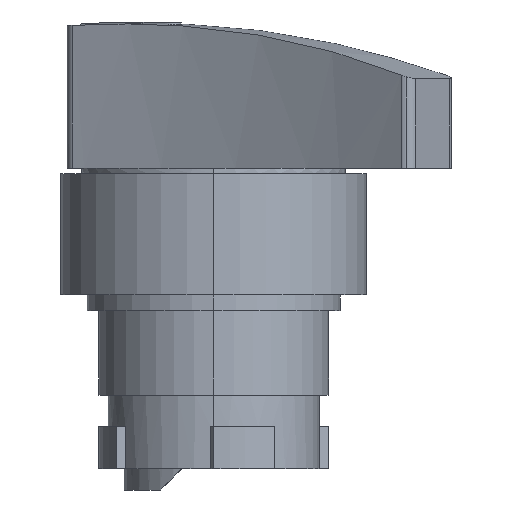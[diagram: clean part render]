
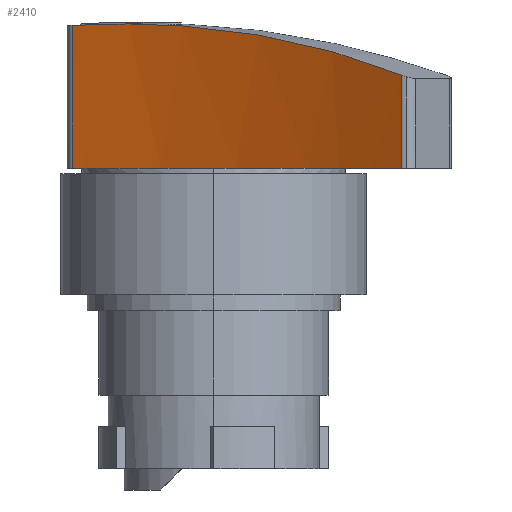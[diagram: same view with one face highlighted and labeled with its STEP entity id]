
A CAD part, left-side view. The second image highlights one B-rep face of the part: STEP entity #2410.
In plain terms, the highlighted cylindrical face has radius 130.225 mm (diameter 260.45 mm), a partial arc.
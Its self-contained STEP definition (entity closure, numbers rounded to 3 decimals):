
#2 = EDGE_CURVE ( 'NONE', #2058, #695, #2016, .T. ) ;
#100 = DIRECTION ( 'NONE',  ( -1., 0., 0. ) ) ;
#102 = EDGE_CURVE ( 'NONE', #1585, #1828, #181, .T. ) ;
#181 = LINE ( 'NONE', #3482, #3354 ) ;
#241 = ORIENTED_EDGE ( 'NONE', *, *, #2680, .T. ) ;
#269 = CARTESIAN_POINT ( 'NONE',  ( -3.725, -0.465, 25.23 ) ) ;
#487 = AXIS2_PLACEMENT_3D ( 'NONE', #3217, #1373, #1064 ) ;
#528 = ORIENTED_EDGE ( 'NONE', *, *, #3227, .F. ) ;
#585 = CARTESIAN_POINT ( 'NONE',  ( -11.581, -13.178, 22.707 ) ) ;
#644 = VERTEX_POINT ( 'NONE', #2310 ) ;
#682 = ORIENTED_EDGE ( 'NONE', *, *, #2, .T. ) ;
#695 = VERTEX_POINT ( 'NONE', #3735 ) ;
#714 = CARTESIAN_POINT ( 'NONE',  ( 2.819, 13.383, 12. ) ) ;
#882 = CARTESIAN_POINT ( 'NONE',  ( -15.181, -17.794, 20.83 ) ) ;
#926 = CIRCLE ( 'NONE', #2881, 130.225 ) ;
#1020 = FACE_OUTER_BOUND ( 'NONE', #1924, .T. ) ;
#1052 = B_SPLINE_CURVE_WITH_KNOTS ( 'NONE', 3,
 ( #882, #585, #2728, #269, #2418, #3961, #2111, #3647 ),
 .UNSPECIFIED., .F., .F.,
 ( 4, 2, 2, 4 ),
 ( 0., 0.018, 0.027, 0.036 ),
 .UNSPECIFIED. ) ;
#1058 = DIRECTION ( 'NONE',  ( 0., 0., -1. ) ) ;
#1064 = DIRECTION ( 'NONE',  ( -1., 0., 0. ) ) ;
#1241 = VERTEX_POINT ( 'NONE', #3974 ) ;
#1257 = EDGE_CURVE ( 'NONE', #644, #1585, #1052, .T. ) ;
#1373 = DIRECTION ( 'NONE',  ( 0., 0., -1. ) ) ;
#1459 = CYLINDRICAL_SURFACE ( 'NONE', #2664, 130.225 ) ;
#1585 = VERTEX_POINT ( 'NONE', #2266 ) ;
#1608 = EDGE_CURVE ( 'NONE', #695, #1241, #3866, .T. ) ;
#1626 = CARTESIAN_POINT ( 'NONE',  ( -117.876, 62.282, 12. ) ) ;
#1828 = VERTEX_POINT ( 'NONE', #714 ) ;
#1853 = DIRECTION ( 'NONE',  ( 0., 0., -1. ) ) ;
#1924 = EDGE_LOOP ( 'NONE', ( #528, #2104, #3935, #241, #682, #2490 ) ) ;
#1952 = DIRECTION ( 'NONE',  ( 0., 0., -1. ) ) ;
#2016 = CIRCLE ( 'NONE', #3123, 130.225 ) ;
#2058 = VERTEX_POINT ( 'NONE', #3772 ) ;
#2104 = ORIENTED_EDGE ( 'NONE', *, *, #1257, .T. ) ;
#2111 = CARTESIAN_POINT ( 'NONE',  ( 1.666, 10.537, 25.715 ) ) ;
#2266 = CARTESIAN_POINT ( 'NONE',  ( 2.819, 13.383, 25.557 ) ) ;
#2310 = CARTESIAN_POINT ( 'NONE',  ( -15.181, -17.794, 20.83 ) ) ;
#2410 = ADVANCED_FACE ( 'NONE', ( #1020 ), #1459, .F. ) ;
#2418 = CARTESIAN_POINT ( 'NONE',  ( -2.291, 2.216, 25.492 ) ) ;
#2490 = ORIENTED_EDGE ( 'NONE', *, *, #1608, .T. ) ;
#2664 = AXIS2_PLACEMENT_3D ( 'NONE', #3833, #1058, #3860 ) ;
#2680 = EDGE_CURVE ( 'NONE', #1828, #2058, #926, .T. ) ;
#2728 = CARTESIAN_POINT ( 'NONE',  ( -8.257, -8.275, 24.039 ) ) ;
#2881 = AXIS2_PLACEMENT_3D ( 'NONE', #1626, #1952, #100 ) ;
#2913 = VECTOR ( 'NONE', #1853, 1000. ) ;
#3123 = AXIS2_PLACEMENT_3D ( 'NONE', #3371, #3545, #3573 ) ;
#3217 = CARTESIAN_POINT ( 'NONE',  ( -117.876, 62.282, 12. ) ) ;
#3227 = EDGE_CURVE ( 'NONE', #644, #1241, #3733, .T. ) ;
#3354 = VECTOR ( 'NONE', #3356, 1000. ) ;
#3356 = DIRECTION ( 'NONE',  ( 0., 0., -1. ) ) ;
#3371 = CARTESIAN_POINT ( 'NONE',  ( -117.876, 62.282, 12. ) ) ;
#3482 = CARTESIAN_POINT ( 'NONE',  ( 2.819, 13.383, 28. ) ) ;
#3545 = DIRECTION ( 'NONE',  ( 0., 0., -1. ) ) ;
#3573 = DIRECTION ( 'NONE',  ( -1., 0., 0. ) ) ;
#3647 = CARTESIAN_POINT ( 'NONE',  ( 2.819, 13.383, 25.557 ) ) ;
#3716 = CARTESIAN_POINT ( 'NONE',  ( -15.181, -17.794, 28. ) ) ;
#3733 = LINE ( 'NONE', #3716, #2913 ) ;
#3735 = CARTESIAN_POINT ( 'NONE',  ( -8.808, -8.87, 12. ) ) ;
#3772 = CARTESIAN_POINT ( 'NONE',  ( 2.364, 12.274, 12. ) ) ;
#3833 = CARTESIAN_POINT ( 'NONE',  ( -117.876, 62.282, 28. ) ) ;
#3860 = DIRECTION ( 'NONE',  ( -1., 0., 0. ) ) ;
#3866 = CIRCLE ( 'NONE', #487, 130.225 ) ;
#3935 = ORIENTED_EDGE ( 'NONE', *, *, #102, .T. ) ;
#3961 = CARTESIAN_POINT ( 'NONE',  ( 0.414, 7.734, 25.735 ) ) ;
#3974 = CARTESIAN_POINT ( 'NONE',  ( -15.181, -17.794, 12. ) ) ;
